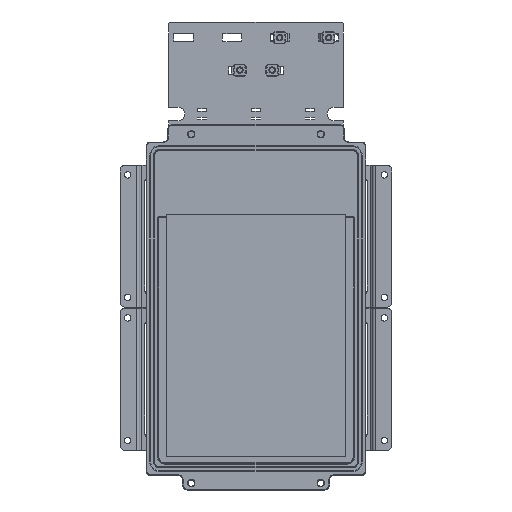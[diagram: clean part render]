
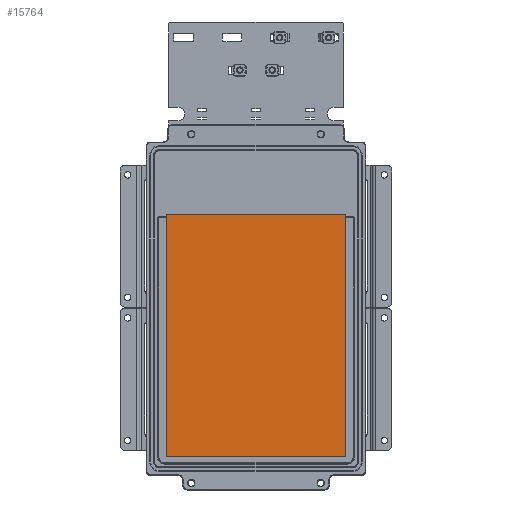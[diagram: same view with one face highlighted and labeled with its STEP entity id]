
A CAD part, front view. The second image highlights one B-rep face of the part: STEP entity #15764.
In plain terms, the highlighted planar face has unit normal (0, -1, 0).
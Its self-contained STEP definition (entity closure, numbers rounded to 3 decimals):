
#374 = FACE_OUTER_BOUND ( 'NONE', #100214, .T. ) ;
#4747 = VERTEX_POINT ( 'NONE', #121405 ) ;
#9586 = ORIENTED_EDGE ( 'NONE', *, *, #124694, .F. ) ;
#15004 = VERTEX_POINT ( 'NONE', #84821 ) ;
#15764 = ADVANCED_FACE ( 'NONE', ( #374 ), #65924, .F. ) ;
#16561 = LINE ( 'NONE', #60040, #25874 ) ;
#20448 = LINE ( 'NONE', #128799, #93636 ) ;
#24949 = VECTOR ( 'NONE', #39569, 1000. ) ;
#25874 = VECTOR ( 'NONE', #103545, 1000. ) ;
#27438 = EDGE_CURVE ( 'NONE', #4747, #15004, #16561, .T. ) ;
#32167 = ORIENTED_EDGE ( 'NONE', *, *, #33538, .F. ) ;
#33538 = EDGE_CURVE ( 'NONE', #36274, #4747, #93720, .T. ) ;
#36274 = VERTEX_POINT ( 'NONE', #44876 ) ;
#39569 = DIRECTION ( 'NONE',  ( 0., 0., 1. ) ) ;
#41062 = CARTESIAN_POINT ( 'NONE',  ( 93.5, -29.5, -151. ) ) ;
#43313 = DIRECTION ( 'NONE',  ( -1., 0., 0. ) ) ;
#44316 = EDGE_CURVE ( 'NONE', #60682, #15004, #63609, .T. ) ;
#44876 = CARTESIAN_POINT ( 'NONE',  ( -89.5, -29.5, -151. ) ) ;
#58265 = CARTESIAN_POINT ( 'NONE',  ( -89.5, -29.5, -151. ) ) ;
#60040 = CARTESIAN_POINT ( 'NONE',  ( -89.5, -29.5, 96. ) ) ;
#60682 = VERTEX_POINT ( 'NONE', #75410 ) ;
#63609 = LINE ( 'NONE', #107826, #137200 ) ;
#65924 = PLANE ( 'NONE',  #69672 ) ;
#69672 = AXIS2_PLACEMENT_3D ( 'NONE', #41062, #140814, #109451 ) ;
#74281 = DIRECTION ( 'NONE',  ( 0., 0., 1. ) ) ;
#75410 = CARTESIAN_POINT ( 'NONE',  ( 93.5, -29.5, -151. ) ) ;
#84821 = CARTESIAN_POINT ( 'NONE',  ( 93.5, -29.5, 96. ) ) ;
#93636 = VECTOR ( 'NONE', #43313, 1000. ) ;
#93720 = LINE ( 'NONE', #58265, #24949 ) ;
#97802 = ORIENTED_EDGE ( 'NONE', *, *, #27438, .F. ) ;
#100214 = EDGE_LOOP ( 'NONE', ( #105955, #97802, #32167, #9586 ) ) ;
#103545 = DIRECTION ( 'NONE',  ( 1., 0., 0. ) ) ;
#105955 = ORIENTED_EDGE ( 'NONE', *, *, #44316, .T. ) ;
#107826 = CARTESIAN_POINT ( 'NONE',  ( 93.5, -29.5, -151. ) ) ;
#109451 = DIRECTION ( 'NONE',  ( 0., 0., -1. ) ) ;
#121405 = CARTESIAN_POINT ( 'NONE',  ( -89.5, -29.5, 96. ) ) ;
#124694 = EDGE_CURVE ( 'NONE', #60682, #36274, #20448, .T. ) ;
#128799 = CARTESIAN_POINT ( 'NONE',  ( 93.5, -29.5, -151. ) ) ;
#137200 = VECTOR ( 'NONE', #74281, 1000. ) ;
#140814 = DIRECTION ( 'NONE',  ( 0., 1., 0. ) ) ;
